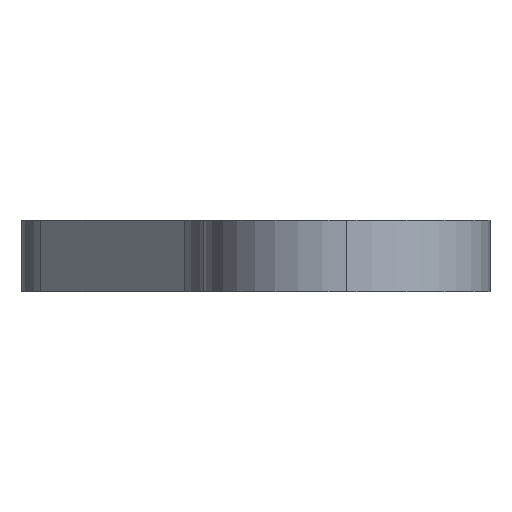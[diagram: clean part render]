
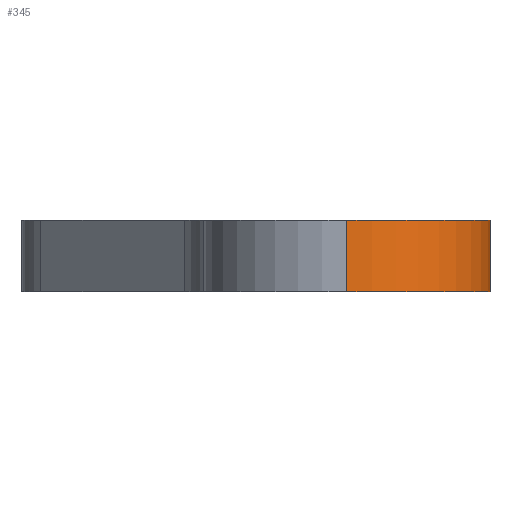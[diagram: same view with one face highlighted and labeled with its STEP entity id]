
A CAD part, left-side view. The second image highlights one B-rep face of the part: STEP entity #345.
In plain terms, the highlighted cylindrical face has radius 20 mm (diameter 40 mm), a partial arc.
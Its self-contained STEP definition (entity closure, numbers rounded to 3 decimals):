
#35 = CARTESIAN_POINT ( 'NONE',  ( -53.355, -20., 10. ) ) ;
#37 = DIRECTION ( 'NONE',  ( -1., 0., 0. ) ) ;
#52 = AXIS2_PLACEMENT_3D ( 'NONE', #204, #217, #206 ) ;
#84 = CARTESIAN_POINT ( 'NONE',  ( -53.355, 0., 0. ) ) ;
#111 = EDGE_LOOP ( 'NONE', ( #592, #571, #213, #545 ) ) ;
#113 = AXIS2_PLACEMENT_3D ( 'NONE', #84, #265, #433 ) ;
#122 = VECTOR ( 'NONE', #416, 1000. ) ;
#129 = EDGE_CURVE ( 'NONE', #497, #689, #589, .T. ) ;
#165 = CARTESIAN_POINT ( 'NONE',  ( -73.355, 0., 10. ) ) ;
#204 = CARTESIAN_POINT ( 'NONE',  ( -53.355, 0., 10. ) ) ;
#206 = DIRECTION ( 'NONE',  ( 1., 0., 0. ) ) ;
#213 = ORIENTED_EDGE ( 'NONE', *, *, #129, .T. ) ;
#217 = DIRECTION ( 'NONE',  ( 0., 0., 1. ) ) ;
#232 = DIRECTION ( 'NONE',  ( 0., 0., -1. ) ) ;
#246 = VERTEX_POINT ( 'NONE', #472 ) ;
#255 = CARTESIAN_POINT ( 'NONE',  ( -73.355, 0., 0. ) ) ;
#265 = DIRECTION ( 'NONE',  ( 0., 0., 1. ) ) ;
#278 = CIRCLE ( 'NONE', #52, 20. ) ;
#315 = LINE ( 'NONE', #165, #429 ) ;
#345 = ADVANCED_FACE ( 'NONE', ( #487 ), #465, .T. ) ;
#399 = EDGE_CURVE ( 'NONE', #246, #473, #278, .T. ) ;
#403 = DIRECTION ( 'NONE',  ( 0., 0., -1. ) ) ;
#416 = DIRECTION ( 'NONE',  ( 0., 0., -1. ) ) ;
#429 = VECTOR ( 'NONE', #232, 1000. ) ;
#433 = DIRECTION ( 'NONE',  ( 1., 0., 0. ) ) ;
#434 = EDGE_CURVE ( 'NONE', #246, #497, #315, .T. ) ;
#450 = CARTESIAN_POINT ( 'NONE',  ( -53.355, -20., 10. ) ) ;
#465 = CYLINDRICAL_SURFACE ( 'NONE', #498, 20. ) ;
#472 = CARTESIAN_POINT ( 'NONE',  ( -73.355, 0., 10. ) ) ;
#473 = VERTEX_POINT ( 'NONE', #35 ) ;
#477 = EDGE_CURVE ( 'NONE', #473, #689, #576, .T. ) ;
#487 = FACE_OUTER_BOUND ( 'NONE', #111, .T. ) ;
#497 = VERTEX_POINT ( 'NONE', #255 ) ;
#498 = AXIS2_PLACEMENT_3D ( 'NONE', #682, #403, #37 ) ;
#545 = ORIENTED_EDGE ( 'NONE', *, *, #477, .F. ) ;
#571 = ORIENTED_EDGE ( 'NONE', *, *, #434, .T. ) ;
#576 = LINE ( 'NONE', #450, #122 ) ;
#589 = CIRCLE ( 'NONE', #113, 20. ) ;
#592 = ORIENTED_EDGE ( 'NONE', *, *, #399, .F. ) ;
#662 = CARTESIAN_POINT ( 'NONE',  ( -53.355, -20., 0. ) ) ;
#682 = CARTESIAN_POINT ( 'NONE',  ( -53.355, 0., 10. ) ) ;
#689 = VERTEX_POINT ( 'NONE', #662 ) ;
